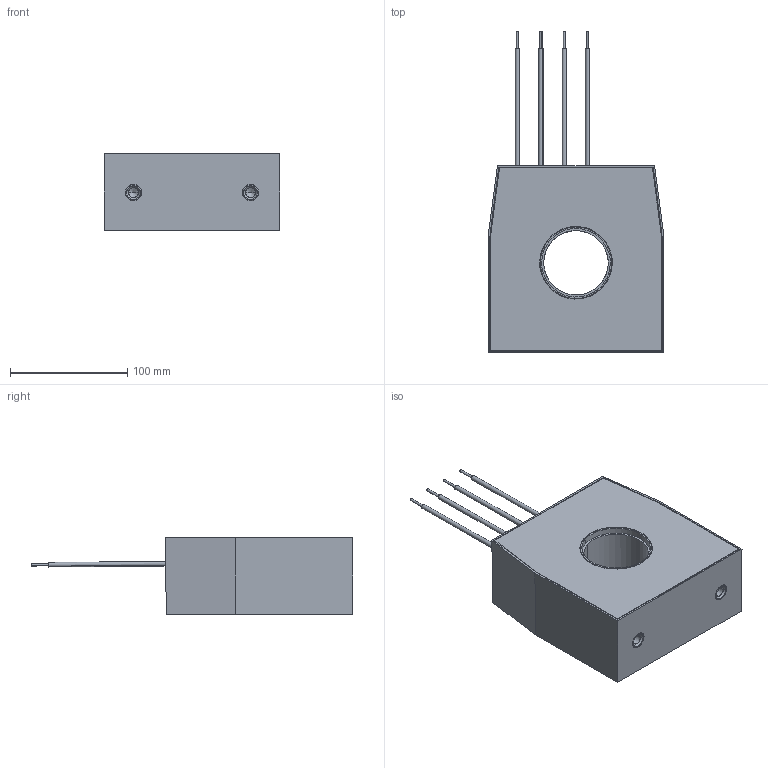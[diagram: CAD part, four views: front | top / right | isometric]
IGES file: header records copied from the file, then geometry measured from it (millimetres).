
Start section: IGES file generated from Kompas f.0 for Windows drawing by the IGES translator from Ascon Ltd., translator version IGESOUT-5.1.
Global section: file name: C:\Ðàáîòà\Èçâåùåíèÿ 5\ÒØÏ-ÍÒÇ-0.66-61...,71...,81... (ñáîðíûé)\Âåðñèÿ îò 21.05.24\3D ìîäåëü\ÒØÏ-ÍÒÇ-0,66-71Ñ\ÒØÏ-ÍÒÇ-0,66-71Ñ (55 ìì, 1-é ãàáàðèò).igs; native system: Kompas( 32 bit ) for Windows; preprocessor: 1.0; author: 123; organization: Microsoft; date: -17750727:093755; units: millimetre
Bounding box: 150 x 274.81 x 65 mm (x, y, z)
Volume: 338549.8 mm3; surface area: 197145.5 mm2
Topology: 9 solids, 9 shells, 159 faces, 347 edges, 219 vertices
Faces by surface type: revolution 92, bspline 67
